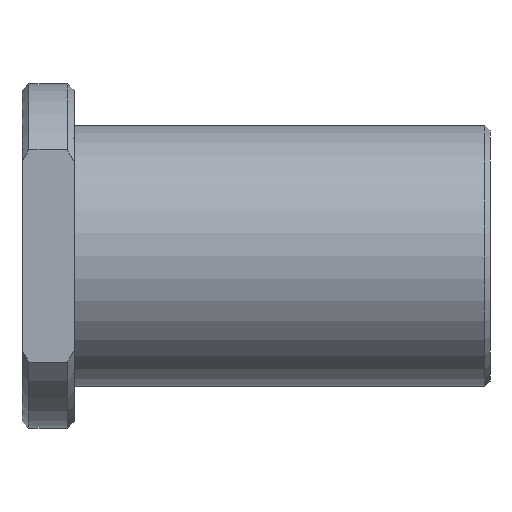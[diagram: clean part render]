
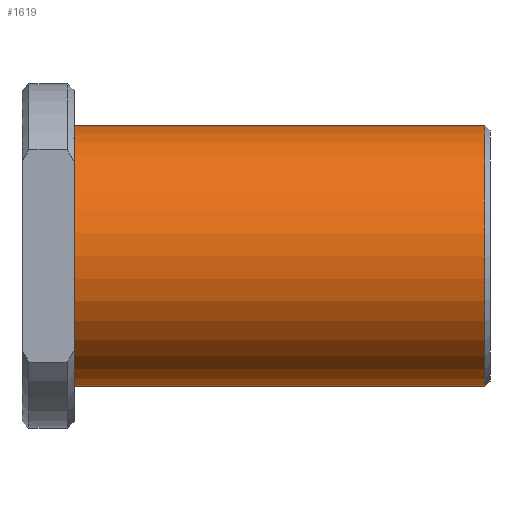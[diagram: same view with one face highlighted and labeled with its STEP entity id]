
A CAD part, front view. The second image highlights one B-rep face of the part: STEP entity #1619.
In plain terms, the highlighted cylindrical face has radius 62.5 mm (diameter 125 mm), a partial arc.
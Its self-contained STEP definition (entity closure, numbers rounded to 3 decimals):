
#1502=CARTESIAN_POINT('POINT123',(25.,0.,
   62.5));
#1503=VERTEX_POINT('VERTEX123',#1502);
#1504=CARTESIAN_POINT('POINT124',(25.,0.,
   -62.5));
#1505=VERTEX_POINT('VERTEX124',#1504);
#1506=CARTESIAN_POINT('POS115',(25.,0.,0.)
   );
#1507=DIRECTION('DIR181',(1.,0.,0.));
#1508=DIRECTION('DIR182',(0.,0.,1.));
#1509=AXIS2_PLACEMENT_3D('AXIS67',#1506,#1507,#1508);
#1510=CIRCLE('ELLIPSE38',#1509,62.5);
#1511=EDGE_CURVE('EDGE189',#1503,#1505,#1510,.T.);
#1555=CARTESIAN_POINT('POINT125',(221.5,0.,
   62.5));
#1556=VERTEX_POINT('VERTEX125',#1555);
#1557=CARTESIAN_POINT('POS117',(123.25,0.,
   62.5));
#1558=DIRECTION('DIR185',(1.,0.,0.));
#1559=VECTOR('VEC49',#1558,1.);
#1560=LINE('STRAIGHT49',#1557,#1559);
#1561=EDGE_CURVE('EDGE191',#1503,#1556,#1560,.T.);
#1563=CARTESIAN_POINT('POINT126',(221.5,0.,
   -62.5));
#1564=VERTEX_POINT('VERTEX126',#1563);
#1565=CARTESIAN_POINT('POS118',(221.5,0.,
   0.));
#1566=DIRECTION('DIR186',(1.,0.,0.));
#1567=DIRECTION('DIR187',(0.,0.,1.));
#1568=AXIS2_PLACEMENT_3D('AXIS69',#1565,#1566,#1567);
#1569=CIRCLE('ELLIPSE39',#1568,62.5);
#1572=CARTESIAN_POINT('POS119',(123.25,0.,
   -62.5));
#1573=DIRECTION('DIR188',(-1.,0.,0.));
#1574=VECTOR('VEC50',#1573,1.);
#1575=LINE('STRAIGHT50',#1572,#1574);
#1576=EDGE_CURVE('EDGE193',#1564,#1505,#1575,.T.);
#1581=CARTESIAN_POINT('POS120',(123.25,0.,
   0.));
#1582=DIRECTION('DIR189',(1.,0.,0.));
#1583=DIRECTION('DIR190',(0.,0.,1.));
#1584=AXIS2_PLACEMENT_3D('AXIS70',#1581,#1582,#1583);
#1585=CYLINDRICAL_SURFACE('CONE_SURF20',#1584,62.5);
#1612=ORIENTED_EDGE('COEDGE385',*,*,#1561,.F.);
#1613=ORIENTED_EDGE('COEDGE386',*,*,#1511,.T.);
#1614=ORIENTED_EDGE('COEDGE387',*,*,#1576,.F.);
#1615=EDGE_CURVE('EDGE196',#1556,#1564,#1569,.T.);
#1616=ORIENTED_EDGE('COEDGE388',*,*,#1615,.F.);
#1617=EDGE_LOOP('NONE',(#1612,#1613,#1614,#1616));
#1618=FACE_BOUND('LOOP1',#1617,.T.);
#1619=ADVANCED_FACE('FACE60',(#1618),#1585,.T.);
